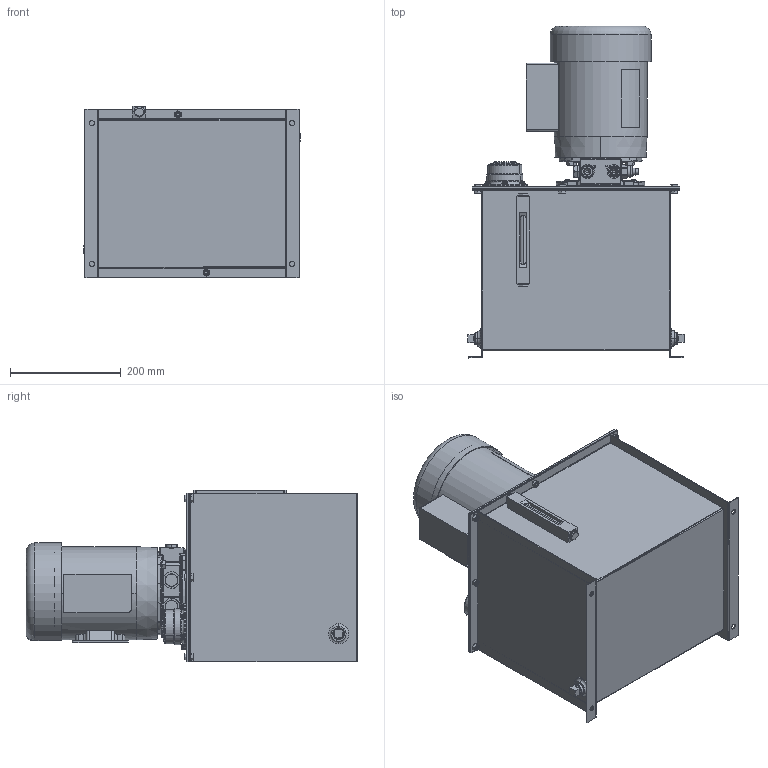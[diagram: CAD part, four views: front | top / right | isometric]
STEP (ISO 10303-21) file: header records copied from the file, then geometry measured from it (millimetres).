
FILE_DESCRIPTION((''),'2;1');
FILE_NAME('647562_SW0001','2012-03-15T',('gb10196'),('OILDYNE'),'PRO/ENGINEER BY PARAMETRIC TECHNOLOGY CORPORATION, 2005380','PRO/ENGINEER BY PARAMETRIC TECHNOLOGY CORPORATION, 2005380','');
FILE_SCHEMA(('CONFIG_CONTROL_DESIGN'));
Products named in the file (1): 647562_SW0001
Bounding box: 391.19 x 599.82 x 310.67 mm (x, y, z)
Surface area: 1599573.6 mm2 (no closed solid volume)
Topology: 0 solids, 123 shells, 1740 faces, 4881 edges, 3205 vertices
Faces by surface type: plane 524, cylinder 440, cone 404, bspline 221, torus 92, sphere 59
Entity records: 68359 total; most frequent: CARTESIAN_POINT 26574, DIRECTION 8333, ORIENTED_EDGE 8265, EDGE_CURVE 4876, AXIS2_PLACEMENT_3D 3305, VERTEX_POINT 3205, EDGE_LOOP 1921, CIRCLE 1786
